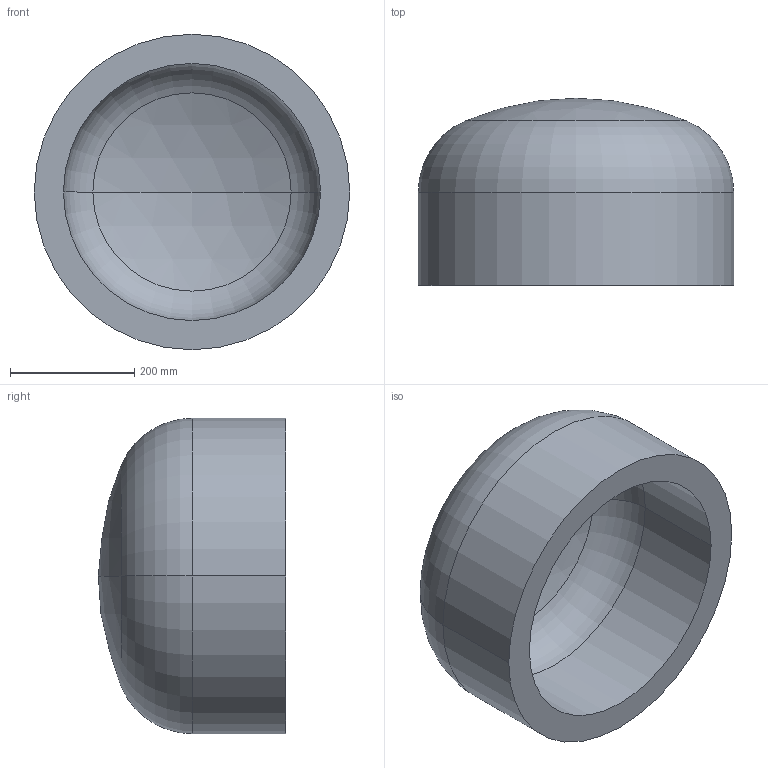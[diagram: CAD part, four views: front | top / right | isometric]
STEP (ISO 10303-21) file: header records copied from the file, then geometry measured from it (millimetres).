
FILE_DESCRIPTION (( 'STEP AP203' ), '1' );
FILE_NAME ('DIN 28013 Korbbogenform_-_Boden DIN 28013 - 508 x 150 - I - s=47.step', '2016-07-01T07:55:21', ( '' ), ( '' ), 'SwSTEP 2.0', 'SolidWorks 2013', '' );
FILE_SCHEMA (( 'CONFIG_CONTROL_DESIGN' ));
Length unit declared in the file: millimetre
Products named in the file (1): DIN 28013 Korbbogenform_-_Boden DIN 28013 - 508 x 150 - I - s=47
Bounding box: 508 x 301.43 x 508 mm (x, y, z)
Volume: 21962667.2 mm3; surface area: 1007276.9 mm2
Topology: 1 solids, 1 shells, 13 faces, 24 edges, 14 vertices
Faces by surface type: torus 4, cylinder 4, sphere 4, plane 1
Entity records: 407 total; most frequent: DIRECTION 72, CARTESIAN_POINT 52, ORIENTED_EDGE 48, AXIS2_PLACEMENT_3D 34, EDGE_CURVE 24, CIRCLE 20, VERTEX_POINT 14, EDGE_LOOP 14
